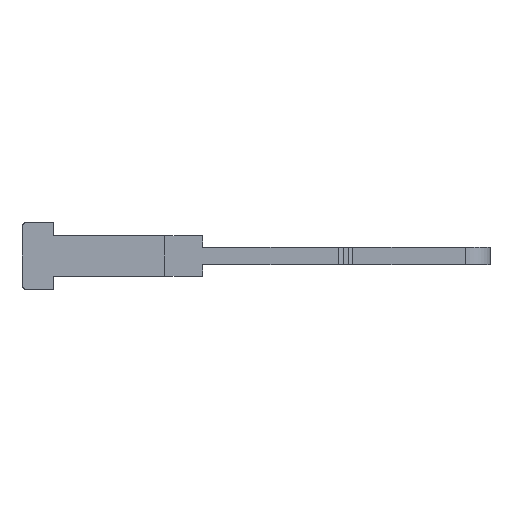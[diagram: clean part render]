
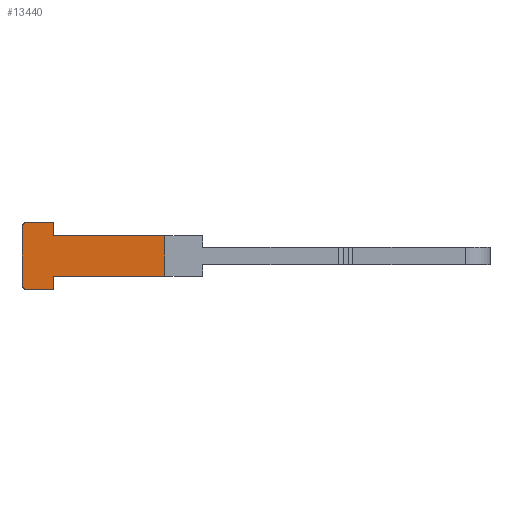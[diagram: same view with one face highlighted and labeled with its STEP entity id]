
A CAD part, left-side view. The second image highlights one B-rep face of the part: STEP entity #13440.
In plain terms, the highlighted planar face has unit normal (-1, 0, 0) as drawn and (1, 0, 0) by its records, which use the part's own axes.
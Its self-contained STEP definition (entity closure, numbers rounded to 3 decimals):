
#670=CARTESIAN_POINT('',(20.05,-0.9,-20.277));
#680=VERTEX_POINT('',#670);
#710=CARTESIAN_POINT('',(20.05,8.,-20.277));
#720=DIRECTION('',(0.,1.,0.));
#730=VECTOR('',#720,1.);
#740=LINE('',#710,#730);
#750=CARTESIAN_POINT('',(20.05,-1.5,-20.277));
#760=VERTEX_POINT('',#750);
#770=EDGE_CURVE('',#760,#680,#740,.T.);
#1750=CARTESIAN_POINT('',(20.05,1.5,11.523));
#1760=DIRECTION('',(0.,0.,-1.));
#1770=VECTOR('',#1760,1.);
#1780=LINE('',#1750,#1770);
#1790=CARTESIAN_POINT('',(20.05,1.5,-20.277));
#1800=VERTEX_POINT('',#1790);
#1810=CARTESIAN_POINT('',(20.05,1.5,-21.477));
#1820=VERTEX_POINT('',#1810);
#1830=EDGE_CURVE('',#1800,#1820,#1780,.T.);
#3630=CARTESIAN_POINT('',(20.05,-1.5,-21.477));
#3640=VERTEX_POINT('',#3630);
#3670=CARTESIAN_POINT('',(20.05,-1.3,-21.477));
#3680=DIRECTION('',(-1.,0.,0.));
#3690=DIRECTION('',(0.,1.,0.));
#3700=AXIS2_PLACEMENT_3D('',#3670,#3680,#3690);
#3710=CIRCLE('',#3700,0.2);
#3720=CARTESIAN_POINT('',(20.05,-1.3,-21.677));
#3730=VERTEX_POINT('',#3720);
#3740=EDGE_CURVE('',#3730,#3640,#3710,.T.);
#8440=CARTESIAN_POINT('',(20.05,0.9,-15.277));
#8450=VERTEX_POINT('',#8440);
#8480=CARTESIAN_POINT('',(20.05,0.,-15.277));
#8490=DIRECTION('',(0.,-1.,0.));
#8500=VECTOR('',#8490,1.);
#8510=LINE('',#8480,#8500);
#8520=CARTESIAN_POINT('',(20.05,-0.9,-15.277));
#8530=VERTEX_POINT('',#8520);
#8540=EDGE_CURVE('',#8450,#8530,#8510,.T.);
#11050=CARTESIAN_POINT('',(20.05,8.,-20.277));
#11060=DIRECTION('',(0.,1.,0.));
#11070=VECTOR('',#11060,1.);
#11080=LINE('',#11050,#11070);
#11090=CARTESIAN_POINT('',(20.05,0.9,-20.277));
#11100=VERTEX_POINT('',#11090);
#11110=EDGE_CURVE('',#11100,#1800,#11080,.T.);
#12990=CARTESIAN_POINT('',(20.05,0.,-15.377))
;
#13000=DIRECTION('',(-1.,0.,0.));
#13010=DIRECTION('',(0.,0.,1.));
#13020=AXIS2_PLACEMENT_3D('',#12990,#13000,#13010);
#13030=PLANE('',#13020);
#13040=CARTESIAN_POINT('',(20.05,1.3,-21.477));
#13050=DIRECTION('',(-1.,0.,0.));
#13060=DIRECTION('',(0.,1.,0.));
#13070=AXIS2_PLACEMENT_3D('',#13040,#13050,#13060);
#13080=CIRCLE('',#13070,0.2);
#13090=CARTESIAN_POINT('',(20.05,1.3,-21.677));
#13100=VERTEX_POINT('',#13090);
#13110=EDGE_CURVE('',#1820,#13100,#13080,.T.);
#13120=ORIENTED_EDGE('',*,*,#13110,.F.);
#13130=CARTESIAN_POINT('',(20.05,8.,-21.677));
#13140=DIRECTION('',(0.,-1.,0.));
#13150=VECTOR('',#13140,1.);
#13160=LINE('',#13130,#13150);
#13170=EDGE_CURVE('',#13100,#3730,#13160,.T.);
#13180=ORIENTED_EDGE('',*,*,#13170,.F.);
#13190=ORIENTED_EDGE('',*,*,#3740,.F.);
#13200=CARTESIAN_POINT('',(20.05,-1.5,11.523));
#13210=DIRECTION('',(0.,0.,1.));
#13220=VECTOR('',#13210,1.);
#13230=LINE('',#13200,#13220);
#13240=EDGE_CURVE('',#3640,#760,#13230,.T.);
#13250=ORIENTED_EDGE('',*,*,#13240,.F.);
#13260=ORIENTED_EDGE('',*,*,#770,.F.);
#13270=CARTESIAN_POINT('',(20.05,-0.9,0.));
#13280=DIRECTION('',(0.,0.,1.));
#13290=VECTOR('',#13280,1.);
#13300=LINE('',#13270,#13290);
#13310=EDGE_CURVE('',#680,#8530,#13300,.T.);
#13320=ORIENTED_EDGE('',*,*,#13310,.F.);
#13330=ORIENTED_EDGE('',*,*,#8540,.T.);
#13340=CARTESIAN_POINT('',(20.05,0.9,0.));
#13350=DIRECTION('',(0.,0.,1.));
#13360=VECTOR('',#13350,1.);
#13370=LINE('',#13340,#13360);
#13380=EDGE_CURVE('',#11100,#8450,#13370,.T.);
#13390=ORIENTED_EDGE('',*,*,#13380,.T.);
#13400=ORIENTED_EDGE('',*,*,#11110,.F.);
#13410=ORIENTED_EDGE('',*,*,#1830,.F.);
#13420=EDGE_LOOP('',(#13410,#13400,#13390,#13330,#13320,#13260,#13250,
#13190,#13180,#13120));
#13430=FACE_OUTER_BOUND('',#13420,.T.);
#13440=ADVANCED_FACE('',(#13430),#13030,.F.);
